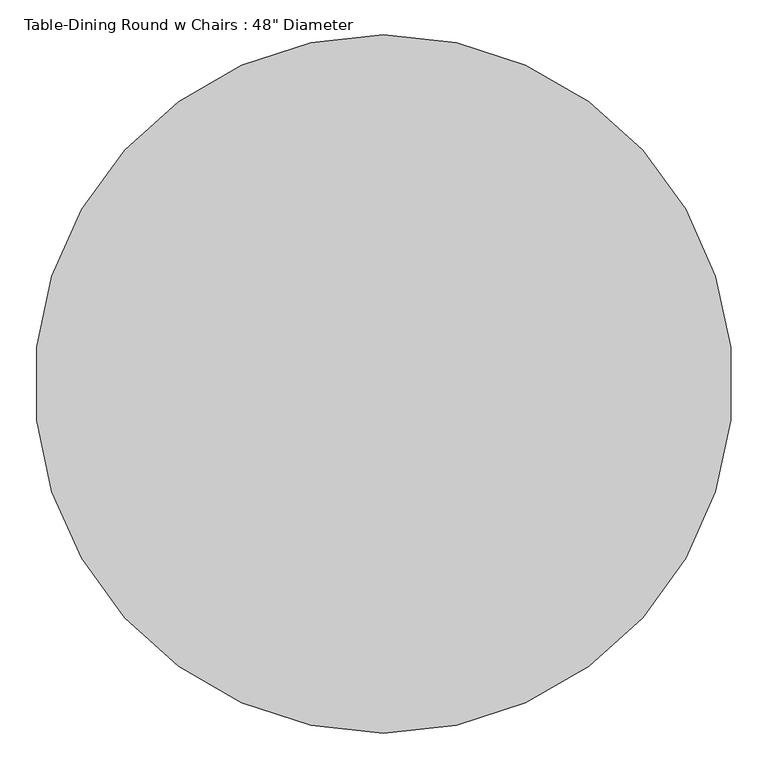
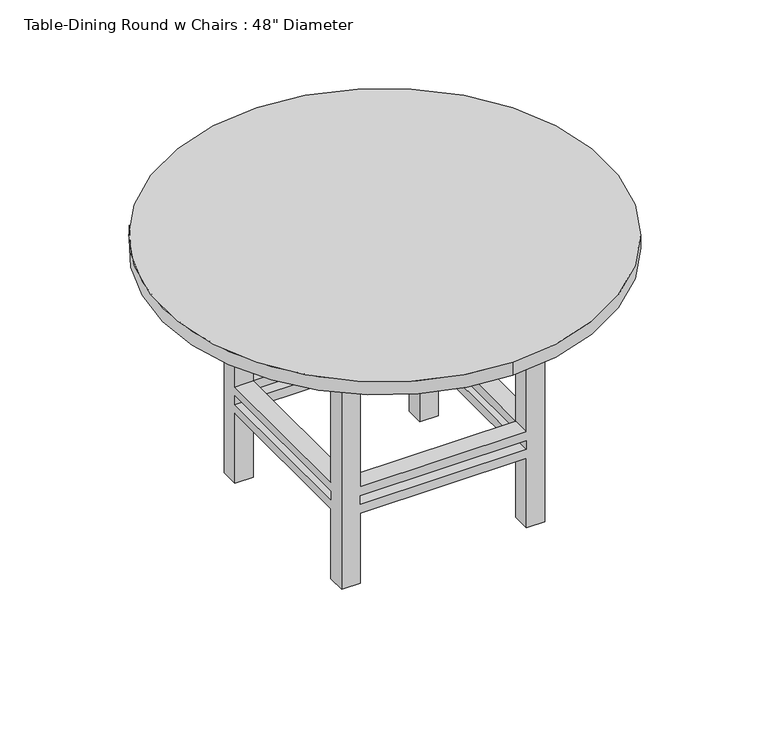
"""IFC4 building model written with IfcOpenShell, lengths in millimetres: furniture geometry."""

import ifcopenshell
import ifcopenshell.guid

model = None  # the IFC model being written
_history = None  # IfcOwnerHistory: only IFC2X3 demands one
_inside = {}  # id of a spatial element -> (the spatial element, [elements in it])
_under = {}  # id of a project, library or spatial element -> (it, [spatial elements below it])
_declared = {}  # id of a project -> (the project, [libraries it declares])
_typed = {}  # id of a type object -> (the type object, [elements of that type])
_made_of = {}  # id of a material, layer set ... -> (it, [elements and type objects made of it])


def new_model(schema):
    """Start an empty IFC model of exactly this schema.

    Asked for "IFC4X3", IfcOpenShell would pick the latest addendum, in which some entities
    have other attributes; the version numbers below select the first issue.
    IFC2X3 requires an IfcOwnerHistory on every rooted entity: one is made here for all.
    """
    global model, _history
    if schema == "IFC4X3":
        model = ifcopenshell.file(schema_version=(4, 3, 0, 0))
    else:
        model = ifcopenshell.file(schema=schema)
    _inside.clear()
    _under.clear()
    _declared.clear()
    _typed.clear()
    _made_of.clear()
    _history = None
    if model.schema == "IFC2X3":
        org = make("IfcOrganization", Name="unknown")
        user = make(
            "IfcPersonAndOrganization",
            ThePerson=make("IfcPerson", FamilyName="unknown"),
            TheOrganization=org,
        )
        app = make(
            "IfcApplication",
            ApplicationDeveloper=org,
            Version="unknown",
            ApplicationFullName="unknown",
            ApplicationIdentifier="unknown",
        )
        _history = make(
            "IfcOwnerHistory",
            OwningUser=user,
            OwningApplication=app,
            ChangeAction="ADDED",
            CreationDate=0,
        )
    return model


def make(cls, **values):
    """One entity of the class cls with the attributes given. An attribute that is None is left unset."""
    return model.create_entity(
        cls, **{name: value for name, value in values.items() if value is not None}
    )


def rooted(cls, **values):
    """An entity with a GlobalId (a new one), such as an element, a storey or a relation."""
    return make(cls, GlobalId=ifcopenshell.guid.new(), OwnerHistory=_history, **values)


def si_unit(unit_type, name, prefix=None):
    """IfcSIUnit, for example si_unit("LENGTHUNIT", "METRE", prefix="MILLI")."""
    return make("IfcSIUnit", UnitType=unit_type, Prefix=prefix, Name=name)


def assignment(units):
    """IfcUnitAssignment: the units of a project."""
    return None if units is None else make("IfcUnitAssignment", Units=units)


def point(xyz):
    """IfcCartesianPoint."""
    return None if xyz is None else make("IfcCartesianPoint", Coordinates=xyz)


def direction(xyz):
    """IfcDirection."""
    return None if xyz is None else make("IfcDirection", DirectionRatios=xyz)


def frame(location, z_axis=None, x_axis=None):
    """IfcAxis2Placement3D, a coordinate frame: its origin and axes. An axis left out is left unset."""
    return make(
        "IfcAxis2Placement3D",
        Location=point(location),
        Axis=direction(z_axis),
        RefDirection=direction(x_axis),
    )


def frame_2d(location, x_axis=None):
    """IfcAxis2Placement2D, a coordinate frame in the plane: its origin and x axis."""
    return make(
        "IfcAxis2Placement2D", Location=point(location), RefDirection=direction(x_axis)
    )


def origin():
    """The frame at (0, 0, 0) with its axes left unset."""
    return frame((0.0, 0.0, 0.0))


def place(relative_to, where):
    """IfcLocalPlacement: puts the frame where relative to a parent placement (None: the world)."""
    return make(
        "IfcLocalPlacement", PlacementRelTo=relative_to, RelativePlacement=where
    )


def context(
    kind, dimensions, precision=None, world=None, true_north=None, identifier=None
):
    """IfcGeometricRepresentationContext, for example the 3D "Model" context."""
    return make(
        "IfcGeometricRepresentationContext",
        ContextIdentifier=identifier,
        ContextType=kind,
        CoordinateSpaceDimension=dimensions,
        Precision=precision,
        WorldCoordinateSystem=world,
        TrueNorth=true_north,
    )


def project(units=None, contexts=None):
    """IfcProject with its units and contexts."""
    return rooted(
        "IfcProject",
        Name="project",
        RepresentationContexts=contexts,
        UnitsInContext=assignment(units),
    )


def spatial(cls, under=None, at=None, **own):
    """A site, building, storey or space (cls), placed at a placement, below another one or the project."""
    s = rooted(cls, ObjectPlacement=at, **own)
    if under is not None:
        _under.setdefault(under.id(), (under, []))[1].append(s)
    return s


def polyline(points):
    """IfcPolyline through the points."""
    return make("IfcPolyline", Points=[point(p) for p in points])


def circle_curve(where, radius):
    """IfcCircle in the frame where."""
    return make("IfcCircle", Position=where, Radius=radius)


def trimmed(basis, trim1, trim2, sense, master):
    """IfcTrimmedCurve: the piece of a basis curve between two trims."""
    return make(
        "IfcTrimmedCurve",
        BasisCurve=basis,
        Trim1=trim1,
        Trim2=trim2,
        SenseAgreement=sense,
        MasterRepresentation=master,
    )


def segment(curve, same_sense, transition):
    """IfcCompositeCurveSegment."""
    return make(
        "IfcCompositeCurveSegment",
        Transition=transition,
        SameSense=same_sense,
        ParentCurve=curve,
    )


def composite_curve(segments, self_intersect=None):
    """IfcCompositeCurve: segments joined end to end."""
    return make("IfcCompositeCurve", Segments=segments, SelfIntersect=self_intersect)


def outline(outer, holes=None, kind="AREA"):
    """IfcArbitraryClosedProfileDef: a profile drawn as a closed curve; with holes, ...WithVoids."""
    if holes is None:
        return make("IfcArbitraryClosedProfileDef", ProfileType=kind, OuterCurve=outer)
    return make(
        "IfcArbitraryProfileDefWithVoids",
        ProfileType=kind,
        OuterCurve=outer,
        InnerCurves=holes,
    )


def extrude(swept, where, along, depth):
    """IfcExtrudedAreaSolid: the profile swept, set in the frame where, extruded along a direction by depth."""
    return make(
        "IfcExtrudedAreaSolid",
        SweptArea=swept,
        Position=where,
        ExtrudedDirection=direction(along),
        Depth=depth,
    )


def faces_of(points, faces, orient=None, outer=None):
    """IfcFace entities. A face is a list of loops; a loop is a list of indices into points, from 0.

    orient and outer hold one flag for each loop. By default every Orientation is true, the
    first loop of a face is its IfcFaceOuterBound and the others are IfcFaceBound.
    """
    made = []
    for i, loops in enumerate(faces):
        bounds = []
        for j, loop in enumerate(loops):
            is_outer = j == 0 if outer is None else outer[i][j]
            bounds.append(
                make(
                    "IfcFaceOuterBound" if is_outer else "IfcFaceBound",
                    Bound=make("IfcPolyLoop", Polygon=[points[k] for k in loop]),
                    Orientation=True if orient is None else orient[i][j],
                )
            )
        made.append(make("IfcFace", Bounds=bounds))
    return made


def faceted_brep(points, faces, orient=None, outer=None, voids=None):
    """IfcFacetedBrep: a solid bounded by flat faces; with voids (closed shells), ...WithVoids."""
    shared = [point(p) for p in points]
    hull = make("IfcClosedShell", CfsFaces=faces_of(shared, faces, orient, outer))
    if voids is None:
        return make("IfcFacetedBrep", Outer=hull)
    return make(
        "IfcFacetedBrepWithVoids",
        Outer=hull,
        Voids=[
            make(cls, CfsFaces=faces_of(shared, fs, o, b)) for cls, fs, o, b in voids
        ],
    )


def shape(context_of_items, identifier, shape_type, items):
    """IfcShapeRepresentation: the items that make up one representation, for example the "Body"."""
    return make(
        "IfcShapeRepresentation",
        ContextOfItems=context_of_items,
        RepresentationIdentifier=identifier,
        RepresentationType=shape_type,
        Items=items,
    )


def source(mapping_origin, context_of_items, identifier, shape_type, items):
    """IfcRepresentationMap: a shape defined once, which mapped items show again and again."""
    return make(
        "IfcRepresentationMap",
        MappingOrigin=mapping_origin,
        MappedRepresentation=shape(context_of_items, identifier, shape_type, items),
    )


def transform(
    local_origin,
    x_axis=None,
    y_axis=None,
    z_axis=None,
    scale=None,
    scale2=None,
    scale3=None,
    uniform=True,
):
    """IfcCartesianTransformationOperator3D, or its non-uniform kind. x_axis, y_axis, z_axis: its Axis1, 2, 3."""
    if uniform:
        return make(
            "IfcCartesianTransformationOperator3D",
            Axis1=direction(x_axis),
            Axis2=direction(y_axis),
            LocalOrigin=point(local_origin),
            Scale=scale,
            Axis3=direction(z_axis),
        )
    return make(
        "IfcCartesianTransformationOperator3DnonUniform",
        Axis1=direction(x_axis),
        Axis2=direction(y_axis),
        LocalOrigin=point(local_origin),
        Scale=scale,
        Axis3=direction(z_axis),
        Scale2=scale2,
        Scale3=scale3,
    )


def mapped(mapping_source, mapping_target):
    """IfcMappedItem: shows the shape of a source again, moved by a transform."""
    return make(
        "IfcMappedItem", MappingSource=mapping_source, MappingTarget=mapping_target
    )


def made_of(thing, what):
    """Note that an element or type object is made of a material, layer set ...; save() writes the relation."""
    if what is not None:
        _made_of.setdefault(what.id(), (what, []))[1].append(thing)
    return thing


def element(
    cls,
    number,
    at=None,
    inside=None,
    cuts=None,
    type_object=None,
    material=None,
    context=None,
    identifier="Body",
    shape_type=None,
    held_by="IfcProductDefinitionShape",
    body=None,
    shapes=None,
    **own,
):
    """One element of the class cls, such as IfcWall. Its Tag is "e" and its number.

    at: its placement. inside: the storey or other place that contains it. cuts: it is an
    opening in that element (IfcRelVoidsElement). A single representation is given by context,
    identifier, shape_type and body (its items); several are given by shapes. held_by: the class
    of the entity that holds the representations. save() writes the other relations.
    """
    e = rooted(cls, Tag="e%d" % number, ObjectPlacement=at, **own)
    if body is not None:
        shapes = [shape(context, identifier, shape_type, body)]
    if shapes is not None:
        e.Representation = make(held_by, Representations=shapes)
    if inside is not None:
        _inside.setdefault(inside.id(), (inside, []))[1].append(e)
    if cuts is not None:
        rooted(
            "IfcRelVoidsElement", RelatingBuildingElement=cuts, RelatedOpeningElement=e
        )
    if type_object is not None:
        _typed.setdefault(type_object.id(), (type_object, []))[1].append(e)
    return made_of(e, material)


def aggregate(whole, parts):
    """IfcRelAggregates: a whole, such as a stair, and the parts it consists of."""
    return rooted("IfcRelAggregates", RelatingObject=whole, RelatedObjects=parts)


def save(model, path):
    """Write the relations noted so far, then the file.

    IfcRelAggregates (storeys below a building ...), IfcRelContainedInSpatialStructure (elements
    in a storey), IfcRelDefinesByType, IfcRelAssociatesMaterial and IfcRelDeclares: one each for
    every whole, place, type object, material and project.
    """
    for whole, parts in _under.values():
        aggregate(whole, parts)
    for where, things in _inside.values():
        rooted(
            "IfcRelContainedInSpatialStructure",
            RelatedElements=things,
            RelatingStructure=where,
        )
    for kind, things in _typed.values():
        rooted("IfcRelDefinesByType", RelatedObjects=things, RelatingType=kind)
    for what, things in _made_of.values():
        rooted("IfcRelAssociatesMaterial", RelatedObjects=things, RelatingMaterial=what)
    for by, libraries in _declared.values():
        rooted("IfcRelDeclares", RelatingContext=by, RelatedDefinitions=libraries)
    model.write(path)


def furniture_69c8b165(model_context):
    return source(origin(), model_context, "Body", "SolidModel", [
        faceted_brep([(332.2819672, 43.7213115, 279.4), (332.2819672, -413.4786885, 279.4), (383.0819672, -413.4786885, 279.4), (383.0819672, 43.7213115, 279.4), (-124.9180328, -413.4786885, 279.4), (-124.9180328, -464.2786885, 279.4), (332.2819672, -464.2786885, 279.4), (-124.9180328, 43.7213115, 279.4), (-175.7180328, 43.7213115, 279.4), (-175.7180328, -413.4786885, 279.4), (332.2819672, 94.5213115, 279.4), (-124.9180328, 94.5213115, 279.4), (332.2819672, 43.7213115, 254.0), (-124.9180328, 43.7213115, 254.0), (-124.9180328, 94.5213115, 254.0), (332.2819672, 94.5213115, 254.0), (-124.9180328, -413.4786885, 254.0), (-175.7180328, -413.4786885, 254.0), (-175.7180328, 43.7213115, 254.0), (332.2819672, -413.4786885, 254.0), (332.2819672, -464.2786885, 254.0), (-124.9180328, -464.2786885, 254.0), (383.0819672, 43.7213115, 254.0), (383.0819672, -413.4786885, 254.0), (-175.7180328, 94.5213115, 647.7), (-124.9180328, 94.5213115, 647.7), (332.2819672, 94.5213115, 647.7), (383.0819672, 94.5213115, 647.7), (383.0819672, 94.5213115, 0.0), (332.2819672, 94.5213115, 0.0), (332.2819672, 94.5213115, 203.2), (-124.9180328, 94.5213115, 203.2), (-124.9180328, 94.5213115, 0.0), (-175.7180328, 94.5213115, 0.0), (-124.9180328, 94.5213115, 228.6), (332.2819672, 94.5213115, 228.6), (-175.7180328, 43.7213115, 647.7), (-175.7180328, 43.7213115, 0.0), (-175.7180328, 43.7213115, 203.2), (-175.7180328, -413.4786885, 203.2), (-175.7180328, -413.4786885, 0.0), (-175.7180328, -464.2786885, 0.0), (-175.7180328, -464.2786885, 647.7), (-175.7180328, -413.4786885, 647.7), (-175.7180328, -413.4786885, 228.6), (-175.7180328, 43.7213115, 228.6), (383.0819672, -464.2786885, 647.7), (332.2819672, -464.2786885, 647.7), (-124.9180328, -464.2786885, 647.7), (-124.9180328, -464.2786885, 0.0), (-124.9180328, -464.2786885, 203.2), (332.2819672, -464.2786885, 203.2), (332.2819672, -464.2786885, 0.0), (383.0819672, -464.2786885, 0.0), (332.2819672, -464.2786885, 228.6), (-124.9180328, -464.2786885, 228.6), (383.0819672, 43.7213115, 647.7), (383.0819672, -413.4786885, 647.7), (383.0819672, -413.4786885, 0.0), (383.0819672, -413.4786885, 203.2), (383.0819672, 43.7213115, 203.2), (383.0819672, 43.7213115, 0.0), (383.0819672, 43.7213115, 228.6), (383.0819672, -413.4786885, 228.6), (-124.9180328, 43.7213115, 647.7), (332.2819672, 43.7213115, 647.7), (332.2819672, -413.4786885, 647.7), (-124.9180328, -413.4786885, 647.7), (-124.9180328, 43.7213115, 0.0), (332.2819672, 43.7213115, 0.0), (332.2819672, -413.4786885, 0.0), (-124.9180328, -413.4786885, 0.0), (-124.9180328, 43.7213115, 203.2), (-124.9180328, 43.7213115, 228.6), (332.2819672, 43.7213115, 203.2), (332.2819672, 43.7213115, 228.6), (332.2819672, -413.4786885, 203.2), (332.2819672, -413.4786885, 228.6), (-124.9180328, -413.4786885, 203.2), (-124.9180328, -413.4786885, 228.6)], [[[0, 1, 2, 3]], [[1, 4, 5, 6]], [[4, 7, 8, 9]], [[7, 0, 10, 11]], [[12, 13, 14, 15]], [[13, 16, 17, 18]], [[16, 19, 20, 21]], [[19, 12, 22, 23]], [[24, 25, 11, 10, 26, 27, 28, 29, 30, 31, 32, 33], [14, 34, 35, 15]], [[36, 24, 33, 37, 38, 39, 40, 41, 42, 43, 9, 8], [17, 44, 45, 18]], [[46, 47, 6, 5, 48, 42, 41, 49, 50, 51, 52, 53], [20, 54, 55, 21]], [[28, 27, 56, 3, 2, 57, 46, 53, 58, 59, 60, 61], [22, 62, 63, 23]], [[1, 0, 12, 19]], [[4, 1, 19, 16]], [[7, 4, 16, 13]], [[0, 7, 13, 12]], [[25, 24, 36, 64]], [[26, 65, 56, 27]], [[47, 46, 57, 66]], [[48, 67, 43, 42]], [[32, 68, 37, 33]], [[29, 28, 61, 69]], [[52, 70, 58, 53]], [[49, 41, 40, 71]], [[64, 36, 8, 7]], [[37, 68, 72, 38]], [[13, 18, 45, 73]], [[25, 64, 7, 11]], [[68, 32, 31, 72]], [[14, 13, 73, 34]], [[65, 26, 10, 0]], [[29, 69, 74, 30]], [[12, 15, 35, 75]], [[56, 65, 0, 3]], [[69, 61, 60, 74]], [[22, 12, 75, 62]], [[66, 57, 2, 1]], [[58, 70, 76, 59]], [[19, 23, 63, 77]], [[47, 66, 1, 6]], [[70, 52, 51, 76]], [[20, 19, 77, 54]], [[67, 48, 5, 4]], [[49, 71, 78, 50]], [[16, 21, 55, 79]], [[43, 67, 4, 9]], [[71, 40, 39, 78]], [[17, 16, 79, 44]], [[75, 77, 63, 62]], [[77, 79, 55, 54]], [[79, 73, 45, 44]], [[73, 75, 35, 34]], [[74, 72, 31, 30]], [[72, 78, 39, 38]], [[78, 76, 51, 50]], [[76, 74, 60, 59]], [[77, 75, 74, 76]], [[79, 77, 76, 78]], [[73, 79, 78, 72]], [[75, 73, 72, 74]]]),
        extrude(outline(polyline([(408.4819672, 119.9213115), (408.4819672, -489.6786885), (-201.1180328, -489.6786885), (-201.1180328, 119.9213115), (408.4819672, 119.9213115)]), holes=[polyline([(383.0819672, 94.5213115), (-175.7180328, 94.5213115), (-175.7180328, -464.2786885), (383.0819672, -464.2786885), (383.0819672, 94.5213115)])]), frame((0.0, 0.0, 647.7), z_axis=(0.0, 0.0, 1.0), x_axis=(1.0, 0.0, 0.0)), (0.0, 0.0, 1.0), 76.2),
        extrude(outline(composite_curve([segment(trimmed(circle_curve(frame_2d((103.6819672, -184.8786885)), 609.6), [point((103.6819672, -794.4786885))], [point((103.6819672, 424.7213115))], False, "CARTESIAN"), True, "CONTINUOUS"), segment(trimmed(circle_curve(frame_2d((103.6819672, -184.8786885)), 609.6), [point((103.6819672, 424.7213115))], [point((103.6819672, -794.4786885))], False, "CARTESIAN"), True, "CONTINUOUS")], self_intersect=False)), frame((0.0, 0.0, 723.9), z_axis=(0.0, 0.0, 1.0), x_axis=(1.0, 0.0, 0.0)), (0.0, 0.0, 1.0), 38.1),
    ])


if __name__ == "__main__":
    model = new_model("IFC4")
    model_context = context("Model", 3, world=origin())
    ifc_project = project(units=[si_unit("LENGTHUNIT", "METRE", prefix="MILLI")], contexts=[model_context])
    site = spatial("IfcSite", under=ifc_project)
    building = spatial("IfcBuilding", under=site)
    placement = place(None, origin())
    furniture_shape = furniture_69c8b165(model_context)
    element("IfcFurniture", 1, ObjectType="Table-Dining Round w Chairs : 48\" Diameter", at=placement, inside=building, context=model_context, shape_type="MappedRepresentation", body=[
        mapped(furniture_shape, transform((0.0, 0.0, 0.0), x_axis=(1.0, 0.0, 0.0), y_axis=(0.0, 1.0, 0.0), z_axis=(0.0, 0.0, 1.0))),
    ])
    save(model, "model.ifc")
